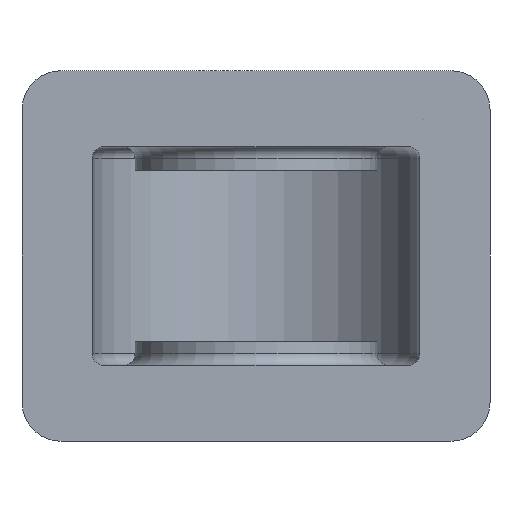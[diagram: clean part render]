
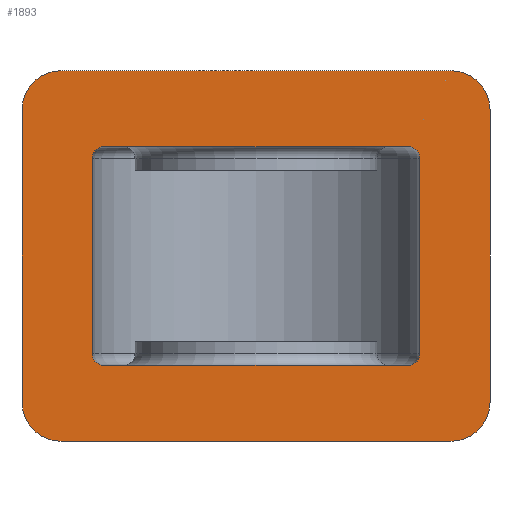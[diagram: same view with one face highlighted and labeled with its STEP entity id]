
A CAD part, front view. The second image highlights one B-rep face of the part: STEP entity #1893.
In plain terms, the highlighted planar face has unit normal (0, -1, 0).
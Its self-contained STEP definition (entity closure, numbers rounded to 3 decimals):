
#874=CARTESIAN_POINT('',(60.,-50.0,37.5));
#875=VERTEX_POINT('',#874);
#882=CARTESIAN_POINT('',(60.,-50.0,-37.5));
#883=VERTEX_POINT('',#882);
#884=CARTESIAN_POINT('',(60.,-50.0,-37.5));
#885=DIRECTION('',(0.0,0.0,1.0));
#886=VECTOR('',#885,75.0);
#887=LINE('',#884,#886);
#888=EDGE_CURVE('',#883,#875,#887,.T.);
#905=CARTESIAN_POINT('',(50.,-50.0,47.5));
#906=VERTEX_POINT('',#905);
#913=CARTESIAN_POINT('',(50.,-50.0,37.5));
#914=DIRECTION('',(0.0,1.0,0.0));
#915=DIRECTION('',(0.707,0.0,0.707));
#916=AXIS2_PLACEMENT_3D('',#913,#914,#915);
#917=CIRCLE('',#916,10.);
#918=EDGE_CURVE('',#906,#875,#917,.T.);
#930=CARTESIAN_POINT('',(-50.,-50.0,47.5));
#931=VERTEX_POINT('',#930);
#938=CARTESIAN_POINT('',(50.,-50.0,47.5));
#939=DIRECTION('',(-1.0,0.0,0.0));
#940=VECTOR('',#939,100.0);
#941=LINE('',#938,#940);
#942=EDGE_CURVE('',#906,#931,#941,.T.);
#954=CARTESIAN_POINT('',(-60.,-50.0,37.5));
#955=VERTEX_POINT('',#954);
#962=CARTESIAN_POINT('',(-50.,-50.0,37.5));
#963=DIRECTION('',(0.0,1.0,0.0));
#964=DIRECTION('',(-0.707,0.0,0.707));
#965=AXIS2_PLACEMENT_3D('',#962,#963,#964);
#966=CIRCLE('',#965,10.);
#967=EDGE_CURVE('',#955,#931,#966,.T.);
#1114=CARTESIAN_POINT('',(39.,-50.0,-28.));
#1115=VERTEX_POINT('',#1114);
#1131=CARTESIAN_POINT('',(-39.0,-50.0,-28.));
#1132=VERTEX_POINT('',#1131);
#1139=CARTESIAN_POINT('',(39.0,-50.0,-28.0));
#1140=DIRECTION('',(-1.0,0.0,0.0));
#1141=VECTOR('',#1140,78.0);
#1142=LINE('',#1139,#1141);
#1143=EDGE_CURVE('',#1115,#1132,#1142,.T.);
#1206=CARTESIAN_POINT('',(39.,-50.0,28.));
#1207=VERTEX_POINT('',#1206);
#1214=CARTESIAN_POINT('',(-39.0,-50.0,28.));
#1215=VERTEX_POINT('',#1214);
#1216=CARTESIAN_POINT('',(-39.0,-50.0,28.));
#1217=DIRECTION('',(1.0,0.0,0.0));
#1218=VECTOR('',#1217,78.0);
#1219=LINE('',#1216,#1218);
#1220=EDGE_CURVE('',#1215,#1207,#1219,.T.);
#1741=CARTESIAN_POINT('',(-50.,-50.0,-47.5));
#1742=VERTEX_POINT('',#1741);
#1749=CARTESIAN_POINT('',(-60.,-50.0,-37.5));
#1750=VERTEX_POINT('',#1749);
#1751=CARTESIAN_POINT('',(-50.,-50.0,-37.5));
#1752=DIRECTION('',(0.0,1.0,0.0));
#1753=DIRECTION('',(-0.707,0.0,-0.707));
#1754=AXIS2_PLACEMENT_3D('',#1751,#1752,#1753);
#1755=CIRCLE('',#1754,10.0);
#1756=EDGE_CURVE('',#1742,#1750,#1755,.T.);
#1773=CARTESIAN_POINT('',(50.,-50.0,-47.5));
#1774=VERTEX_POINT('',#1773);
#1781=CARTESIAN_POINT('',(-50.,-50.0,-47.5));
#1782=DIRECTION('',(1.0,0.0,0.0));
#1783=VECTOR('',#1782,100.);
#1784=LINE('',#1781,#1783);
#1785=EDGE_CURVE('',#1742,#1774,#1784,.T.);
#1798=CARTESIAN_POINT('',(50.,-50.0,-37.5));
#1799=DIRECTION('',(0.0,1.0,0.0));
#1800=DIRECTION('',(0.707,0.0,-0.707));
#1801=AXIS2_PLACEMENT_3D('',#1798,#1799,#1800);
#1802=CIRCLE('',#1801,10.);
#1803=EDGE_CURVE('',#883,#1774,#1802,.T.);
#1816=CARTESIAN_POINT('',(-60.,-50.0,37.5));
#1817=DIRECTION('',(0.0,0.0,-1.0));
#1818=VECTOR('',#1817,75.);
#1819=LINE('',#1816,#1818);
#1820=EDGE_CURVE('',#955,#1750,#1819,.T.);
#1826=CARTESIAN_POINT('',(0.,-50.0,0.));
#1827=DIRECTION('',(0.0,1.0,0.0));
#1828=DIRECTION('',(0.0,0.0,1.0));
#1829=AXIS2_PLACEMENT_3D('',#1826,#1827,#1828);
#1830=PLANE('',#1829);
#1831=ORIENTED_EDGE('',*,*,#1756,.F.);
#1832=ORIENTED_EDGE('',*,*,#1785,.T.);
#1833=ORIENTED_EDGE('',*,*,#1803,.F.);
#1834=ORIENTED_EDGE('',*,*,#888,.T.);
#1835=ORIENTED_EDGE('',*,*,#918,.F.);
#1836=ORIENTED_EDGE('',*,*,#942,.T.);
#1837=ORIENTED_EDGE('',*,*,#967,.F.);
#1838=ORIENTED_EDGE('',*,*,#1820,.T.);
#1839=EDGE_LOOP('',(#1831,#1832,#1833,#1834,#1835,#1836,#1837,#1838));
#1840=FACE_OUTER_BOUND('',#1839,.T.);
#1841=CARTESIAN_POINT('',(42.,-50.0,25.0));
#1842=VERTEX_POINT('',#1841);
#1843=CARTESIAN_POINT('',(39.0,-50.0,25.0));
#1844=DIRECTION('',(0.0,1.0,0.0));
#1845=DIRECTION('',(-1.0,0.0,0.0));
#1846=AXIS2_PLACEMENT_3D('',#1843,#1844,#1845);
#1847=CIRCLE('',#1846,3.);
#1848=EDGE_CURVE('',#1207,#1842,#1847,.T.);
#1849=ORIENTED_EDGE('',*,*,#1848,.T.);
#1850=CARTESIAN_POINT('',(42.,-50.0,-25.));
#1851=VERTEX_POINT('',#1850);
#1852=CARTESIAN_POINT('',(42.0,-50.0,25.0));
#1853=DIRECTION('',(0.0,0.0,-1.0));
#1854=VECTOR('',#1853,50.);
#1855=LINE('',#1852,#1854);
#1856=EDGE_CURVE('',#1842,#1851,#1855,.T.);
#1857=ORIENTED_EDGE('',*,*,#1856,.T.);
#1858=CARTESIAN_POINT('',(39.0,-50.0,-25.0));
#1859=DIRECTION('',(0.0,1.0,0.0));
#1860=DIRECTION('',(0.0,0.0,1.0));
#1861=AXIS2_PLACEMENT_3D('',#1858,#1859,#1860);
#1862=CIRCLE('',#1861,3.);
#1863=EDGE_CURVE('',#1851,#1115,#1862,.T.);
#1864=ORIENTED_EDGE('',*,*,#1863,.T.);
#1865=ORIENTED_EDGE('',*,*,#1143,.T.);
#1866=CARTESIAN_POINT('',(-42.0,-50.0,-25.));
#1867=VERTEX_POINT('',#1866);
#1868=CARTESIAN_POINT('',(-39.0,-50.0,-25.0));
#1869=DIRECTION('',(0.0,1.0,0.0));
#1870=DIRECTION('',(1.0,0.0,0.0));
#1871=AXIS2_PLACEMENT_3D('',#1868,#1869,#1870);
#1872=CIRCLE('',#1871,3.);
#1873=EDGE_CURVE('',#1132,#1867,#1872,.T.);
#1874=ORIENTED_EDGE('',*,*,#1873,.T.);
#1875=CARTESIAN_POINT('',(-42.0,-50.0,25.0));
#1876=VERTEX_POINT('',#1875);
#1877=CARTESIAN_POINT('',(-42.0,-50.0,-25.));
#1878=DIRECTION('',(0.0,0.0,1.0));
#1879=VECTOR('',#1878,50.);
#1880=LINE('',#1877,#1879);
#1881=EDGE_CURVE('',#1867,#1876,#1880,.T.);
#1882=ORIENTED_EDGE('',*,*,#1881,.T.);
#1883=CARTESIAN_POINT('',(-39.0,-50.0,25.0));
#1884=DIRECTION('',(0.0,1.0,0.0));
#1885=DIRECTION('',(0.0,0.0,-1.0));
#1886=AXIS2_PLACEMENT_3D('',#1883,#1884,#1885);
#1887=CIRCLE('',#1886,3.);
#1888=EDGE_CURVE('',#1876,#1215,#1887,.T.);
#1889=ORIENTED_EDGE('',*,*,#1888,.T.);
#1890=ORIENTED_EDGE('',*,*,#1220,.T.);
#1891=EDGE_LOOP('',(#1849,#1857,#1864,#1865,#1874,#1882,#1889,#1890));
#1892=FACE_BOUND('',#1891,.T.);
#1893=ADVANCED_FACE('',(#1840,#1892),#1830,.F.);
